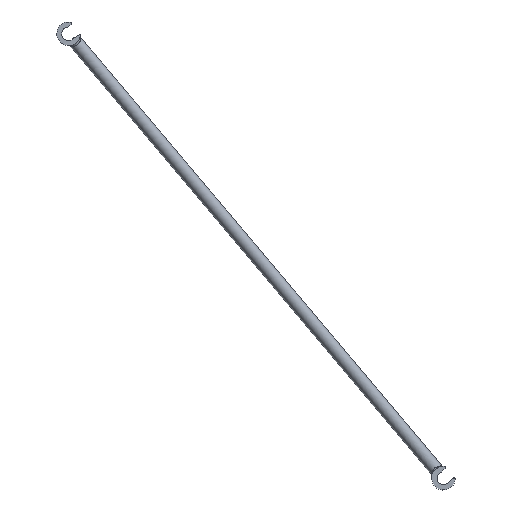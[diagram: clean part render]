
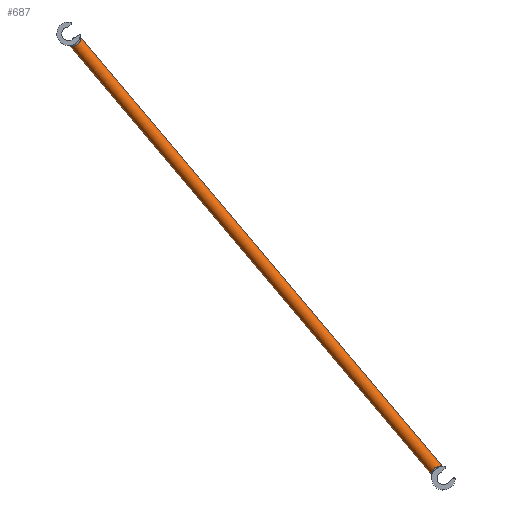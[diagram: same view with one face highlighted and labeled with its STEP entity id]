
A CAD part, left-side view. The second image highlights one B-rep face of the part: STEP entity #687.
In plain terms, the highlighted cylindrical face has radius 1 mm (diameter 2 mm), a full revolution.
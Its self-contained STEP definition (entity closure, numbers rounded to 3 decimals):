
#31=ELLIPSE('',#746,6.929,1.);
#32=ELLIPSE('',#747,6.929,1.);
#37=LINE('',#1304,#76);
#38=LINE('',#1306,#77);
#76=VECTOR('',#842,0.75);
#77=VECTOR('',#843,0.75);
#114=CYLINDRICAL_SURFACE('',#745,1.);
#136=FACE_OUTER_BOUND('',#176,.T.);
#176=EDGE_LOOP('',(#474,#475,#476,#477,#478,#479,#480,#481,#482));
#260=B_SPLINE_CURVE_WITH_KNOTS('',3,(#1222,#1223,#1224,#1225,#1226,#1227,
#1228,#1229,#1230,#1231,#1232),.UNSPECIFIED.,.F.,.F.,(4,1,1,1,1,1,1,1,4),
(0.,0.022,0.045,0.089,0.111,
0.134,0.156,0.178,0.179),
 .UNSPECIFIED.);
#261=B_SPLINE_CURVE_WITH_KNOTS('',3,(#1233,#1234,#1235,#1236,#1237,#1238,
#1239,#1240,#1241,#1242,#1243,#1244,#1245,#1246,#1247,#1248,#1249,#1250,
#1251,#1252),.UNSPECIFIED.,.F.,.F.,(4,1,1,1,1,1,1,1,1,1,1,1,1,1,1,1,1,4),
(0.179,0.223,0.245,0.251,
0.256,0.267,0.29,0.312,
0.334,0.356,0.379,0.401,
0.445,0.49,0.534,0.557,
0.59,0.624),.UNSPECIFIED.);
#263=B_SPLINE_CURVE_WITH_KNOTS('',3,(#1287,#1288,#1289,#1290,#1291,#1292,
#1293,#1294,#1295,#1296,#1297,#1298,#1299,#1300,#1301),.UNSPECIFIED.,.F.,
 .F.,(4,1,1,1,1,1,1,1,1,1,1,1,4),(0.554,0.586,0.619,
0.684,0.732,0.748,0.781,
0.813,0.846,0.878,0.943,
0.975,1.008),.UNSPECIFIED.);
#283=VERTEX_POINT('',#1219);
#284=VERTEX_POINT('',#1221);
#289=VERTEX_POINT('',#1285);
#290=VERTEX_POINT('',#1286);
#291=VERTEX_POINT('',#1302);
#292=VERTEX_POINT('',#1305);
#354=EDGE_CURVE('',#283,#284,#260,.T.);
#355=EDGE_CURVE('',#284,#283,#261,.T.);
#362=EDGE_CURVE('',#289,#290,#263,.T.);
#363=EDGE_CURVE('',#291,#289,#31,.T.);
#364=EDGE_CURVE('',#291,#284,#37,.T.);
#365=EDGE_CURVE('',#284,#292,#38,.T.);
#366=EDGE_CURVE('',#290,#291,#32,.T.);
#474=ORIENTED_EDGE('',*,*,#362,.F.);
#475=ORIENTED_EDGE('',*,*,#363,.F.);
#476=ORIENTED_EDGE('',*,*,#364,.T.);
#477=ORIENTED_EDGE('',*,*,#354,.F.);
#478=ORIENTED_EDGE('',*,*,#355,.F.);
#479=ORIENTED_EDGE('',*,*,#365,.T.);
#480=ORIENTED_EDGE('',*,*,#365,.F.);
#481=ORIENTED_EDGE('',*,*,#364,.F.);
#482=ORIENTED_EDGE('',*,*,#366,.F.);
#687=ADVANCED_FACE('',(#136),#114,.T.);
#745=AXIS2_PLACEMENT_3D('',#1284,#838,#839);
#746=AXIS2_PLACEMENT_3D('',#1303,#840,#841);
#747=AXIS2_PLACEMENT_3D('',#1307,#844,#845);
#838=DIRECTION('center_axis',(-0.158,0.637,0.755));
#839=DIRECTION('ref_axis',(-0.97,-0.241,0.));
#840=DIRECTION('center_axis',(1.,0.009,0.011));
#841=DIRECTION('ref_axis',(-0.014,0.645,0.764));
#842=DIRECTION('',(-0.158,0.637,0.755));
#843=DIRECTION('',(-0.158,0.637,0.755));
#844=DIRECTION('center_axis',(1.,0.009,0.011));
#845=DIRECTION('ref_axis',(-0.014,0.645,0.764));
#1219=CARTESIAN_POINT('',(-447.467,101.487,-134.377));
#1221=CARTESIAN_POINT('',(-446.359,102.028,-135.573));
#1222=CARTESIAN_POINT('Ctrl Pts',(-447.467,101.487,-134.377));
#1223=CARTESIAN_POINT('Ctrl Pts',(-447.388,101.484,-134.378));
#1224=CARTESIAN_POINT('Ctrl Pts',(-447.23,101.478,-134.409));
#1225=CARTESIAN_POINT('Ctrl Pts',(-446.932,101.469,-134.56));
#1226=CARTESIAN_POINT('Ctrl Pts',(-446.676,101.488,-134.795));
#1227=CARTESIAN_POINT('Ctrl Pts',(-446.482,101.571,-135.057));
#1228=CARTESIAN_POINT('Ctrl Pts',(-446.379,101.675,-135.254));
#1229=CARTESIAN_POINT('Ctrl Pts',(-446.33,101.824,-135.433));
#1230=CARTESIAN_POINT('Ctrl Pts',(-446.341,101.954,-135.53));
#1231=CARTESIAN_POINT('Ctrl Pts',(-446.358,102.024,-135.571));
#1232=CARTESIAN_POINT('Ctrl Pts',(-446.359,102.028,-135.573));
#1233=CARTESIAN_POINT('Ctrl Pts',(-446.359,102.028,-135.573));
#1234=CARTESIAN_POINT('Ctrl Pts',(-446.391,102.157,-135.648));
#1235=CARTESIAN_POINT('Ctrl Pts',(-446.497,102.37,-135.712));
#1236=CARTESIAN_POINT('Ctrl Pts',(-446.669,102.578,-135.726));
#1237=CARTESIAN_POINT('Ctrl Pts',(-446.758,102.669,-135.725));
#1238=CARTESIAN_POINT('Ctrl Pts',(-446.82,102.727,-135.722));
#1239=CARTESIAN_POINT('Ctrl Pts',(-446.934,102.822,-135.714));
#1240=CARTESIAN_POINT('Ctrl Pts',(-447.111,102.935,-135.694));
#1241=CARTESIAN_POINT('Ctrl Pts',(-447.343,103.017,-135.671));
#1242=CARTESIAN_POINT('Ctrl Pts',(-447.581,103.021,-135.661));
#1243=CARTESIAN_POINT('Ctrl Pts',(-447.804,102.941,-135.665));
#1244=CARTESIAN_POINT('Ctrl Pts',(-447.995,102.798,-135.669));
#1245=CARTESIAN_POINT('Ctrl Pts',(-448.205,102.553,-135.653));
#1246=CARTESIAN_POINT('Ctrl Pts',(-448.378,102.193,-135.559));
#1247=CARTESIAN_POINT('Ctrl Pts',(-448.403,101.808,-135.268));
#1248=CARTESIAN_POINT('Ctrl Pts',(-448.266,101.618,-134.934));
#1249=CARTESIAN_POINT('Ctrl Pts',(-448.058,101.53,-134.651));
#1250=CARTESIAN_POINT('Ctrl Pts',(-447.814,101.499,-134.439));
#1251=CARTESIAN_POINT('Ctrl Pts',(-447.584,101.492,-134.375));
#1252=CARTESIAN_POINT('Ctrl Pts',(-447.467,101.487,-134.377));
#1284=CARTESIAN_POINT('Origin',(-447.707,103.303,-133.775));
#1285=CARTESIAN_POINT('',(-433.886,47.924,-197.915));
#1286=CARTESIAN_POINT('',(-433.886,49.414,-199.172));
#1287=CARTESIAN_POINT('Ctrl Pts',(-433.886,47.924,-197.915));
#1288=CARTESIAN_POINT('Ctrl Pts',(-433.972,47.899,-197.914));
#1289=CARTESIAN_POINT('Ctrl Pts',(-434.154,47.88,-197.911));
#1290=CARTESIAN_POINT('Ctrl Pts',(-434.513,47.973,-197.898));
#1291=CARTESIAN_POINT('Ctrl Pts',(-434.86,48.232,-197.894));
#1292=CARTESIAN_POINT('Ctrl Pts',(-435.075,48.532,-197.971));
#1293=CARTESIAN_POINT('Ctrl Pts',(-435.173,48.764,-198.082));
#1294=CARTESIAN_POINT('Ctrl Pts',(-435.208,48.951,-198.209));
#1295=CARTESIAN_POINT('Ctrl Pts',(-435.166,49.139,-198.405));
#1296=CARTESIAN_POINT('Ctrl Pts',(-435.05,49.273,-198.618));
#1297=CARTESIAN_POINT('Ctrl Pts',(-434.822,49.387,-198.893));
#1298=CARTESIAN_POINT('Ctrl Pts',(-434.513,49.423,-199.121));
#1299=CARTESIAN_POINT('Ctrl Pts',(-434.154,49.425,-199.215));
#1300=CARTESIAN_POINT('Ctrl Pts',(-433.972,49.419,-199.197));
#1301=CARTESIAN_POINT('Ctrl Pts',(-433.886,49.414,-199.172));
#1302=CARTESIAN_POINT('',(-433.961,52.199,-194.645));
#1303=CARTESIAN_POINT('Origin',(-433.864,47.668,-199.731));
#1304=CARTESIAN_POINT('',(-446.736,103.544,-133.775));
#1305=CARTESIAN_POINT('',(-446.479,102.51,-135.001));
#1306=CARTESIAN_POINT('',(-446.736,103.544,-133.775));
#1307=CARTESIAN_POINT('Origin',(-433.864,47.668,-199.731));
